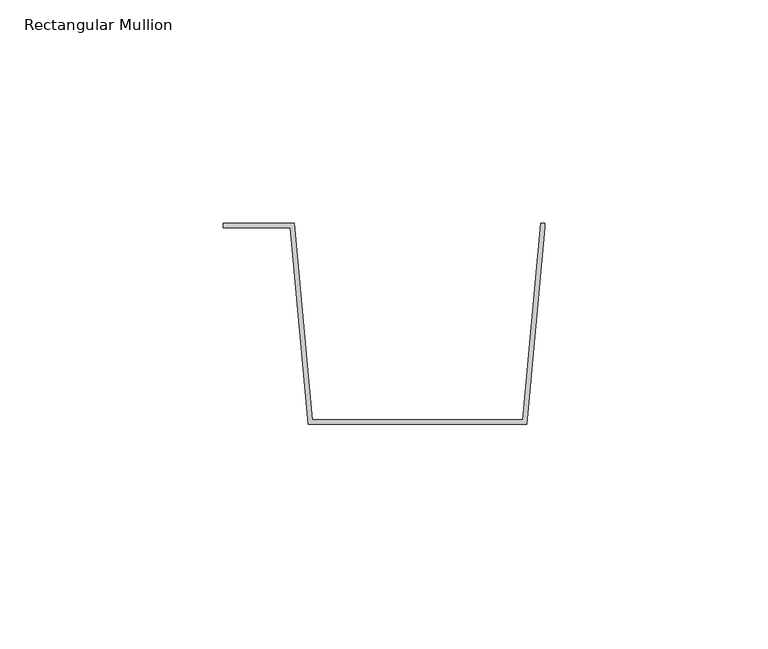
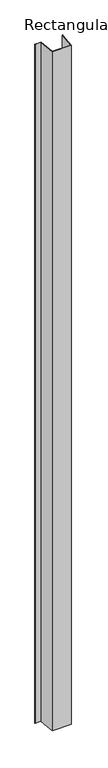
"""IFC4 building model written with IfcOpenShell, lengths in millimetres: member geometry, Rectangular Mullion : CD_NINELINE_Batten Intermediate 20mm pan."""

from ifc_helpers import new_model, si_unit, frame, origin, place, context, project, spatial, polyline, outline, extrude, source, transform, mapped, element, save


def rectangular_mullion_01a75ad8(model_context):
    return source(origin(), model_context, "Body", "SweptSolid", [
        extrude(outline(polyline([(34.0, 0.0), (49.9132146, 0.0), (53.9132146, -44.0), (101.0867854, -44.0), (105.0867854, 0.0), (106.0, 0.0), (106.0, -1.0), (102.0, -45.0), (53.0, -45.0), (49.0, -1.0), (34.0, -1.0), (34.0, 0.0)])), frame((0.0, 0.0, -1855.0), z_axis=(0.0, 0.0, 1.0), x_axis=(1.0, 0.0, 0.0)), (0.0, 0.0, 1.0), 1855.0),
    ])


if __name__ == "__main__":
    model = new_model("IFC4")
    model_context = context("Model", 3, world=origin())
    ifc_project = project(units=[si_unit("LENGTHUNIT", "METRE", prefix="MILLI")], contexts=[model_context])
    site = spatial("IfcSite", under=ifc_project)
    building = spatial("IfcBuilding", under=site)
    placement = place(None, origin())
    rectangular_mullion_shape = rectangular_mullion_01a75ad8(model_context)
    element("IfcMember", 1, ObjectType="Rectangular Mullion : CD_NINELINE_Batten Intermediate 20mm pan", at=placement, inside=building, context=model_context, shape_type="MappedRepresentation", body=[
        mapped(rectangular_mullion_shape, transform((0.0, 0.0, 0.0), x_axis=(1.0, 0.0, 0.0), y_axis=(0.0, 1.0, 0.0), z_axis=(0.0, 0.0, 1.0))),
    ])
    save(model, "model.ifc")
